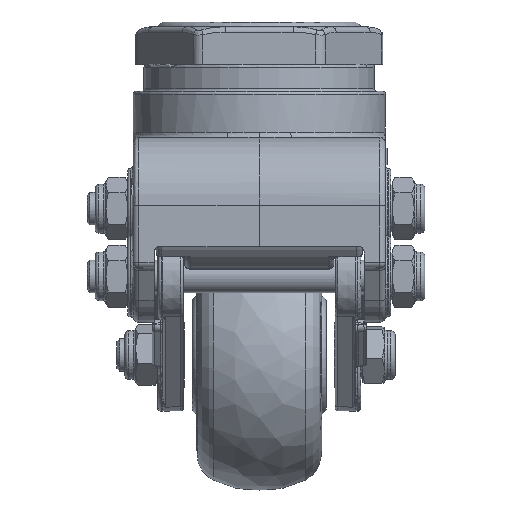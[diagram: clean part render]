
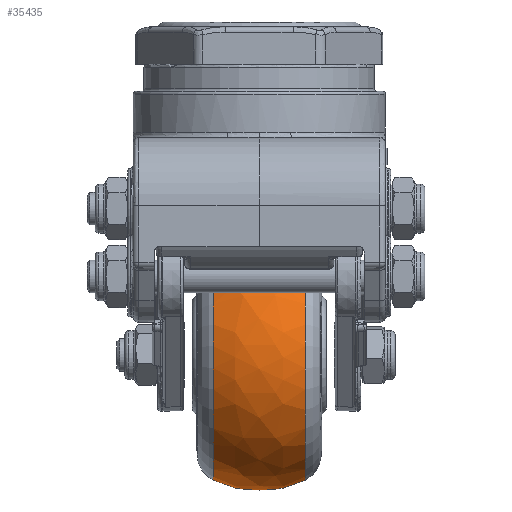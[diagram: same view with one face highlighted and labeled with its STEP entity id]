
A CAD part, left-side view. The second image highlights one B-rep face of the part: STEP entity #35435.
In plain terms, the highlighted free-form (B-spline) face has degree [2, 2] with [3, 9] control points.
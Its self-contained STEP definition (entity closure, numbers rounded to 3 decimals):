
#18=(
BOUNDED_SURFACE()
B_SPLINE_SURFACE(2,2,((#55924,#55925,#55926,#55927,#55928,#55929,#55930,
#55931,#55932),(#55933,#55934,#55935,#55936,#55937,#55938,#55939,#55940,
#55941),(#55942,#55943,#55944,#55945,#55946,#55947,#55948,#55949,#55950)),
 .UNSPECIFIED.,.F.,.T.,.F.)
B_SPLINE_SURFACE_WITH_KNOTS((3,3),(3,2,2,2,3),(-0.44,0.44),
(-3.142,-1.571,0.,1.571,3.142),
 .UNSPECIFIED.)
GEOMETRIC_REPRESENTATION_ITEM()
RATIONAL_B_SPLINE_SURFACE(((1.,0.707,1.,0.707,1.,
0.707,1.,0.707,1.),(0.905,0.64,
0.905,0.64,0.905,0.64,
0.905,0.64,0.905),(1.,0.707,
1.,0.707,1.,0.707,1.,0.707,1.)))
REPRESENTATION_ITEM('')
SURFACE()
);
#3063=FACE_OUTER_BOUND('',#5084,.T.);
#5084=EDGE_LOOP('',(#26461,#26462,#26463,#26464,#26465,#26466));
#6847=CIRCLE('',#37865,23.096);
#6848=CIRCLE('',#37866,23.096);
#6859=CIRCLE('',#37883,23.096);
#6860=CIRCLE('',#37884,23.096);
#6862=CIRCLE('',#37886,20.);
#15012=VERTEX_POINT('',#55885);
#15013=VERTEX_POINT('',#55887);
#15024=VERTEX_POINT('',#55919);
#15025=VERTEX_POINT('',#55920);
#19116=EDGE_CURVE('',#15012,#15013,#6847,.T.);
#19117=EDGE_CURVE('',#15013,#15012,#6848,.T.);
#19131=EDGE_CURVE('',#15024,#15025,#6859,.T.);
#19132=EDGE_CURVE('',#15025,#15024,#6860,.T.);
#19134=EDGE_CURVE('',#15012,#15025,#6862,.T.);
#26461=ORIENTED_EDGE('',*,*,#19117,.F.);
#26462=ORIENTED_EDGE('',*,*,#19116,.F.);
#26463=ORIENTED_EDGE('',*,*,#19134,.T.);
#26464=ORIENTED_EDGE('',*,*,#19132,.T.);
#26465=ORIENTED_EDGE('',*,*,#19131,.T.);
#26466=ORIENTED_EDGE('',*,*,#19134,.F.);
#35435=ADVANCED_FACE('',(#3063),#18,.F.);
#37865=AXIS2_PLACEMENT_3D('',#55888,#42582,#42583);
#37866=AXIS2_PLACEMENT_3D('',#55889,#42584,#42585);
#37883=AXIS2_PLACEMENT_3D('',#55921,#42621,#42622);
#37884=AXIS2_PLACEMENT_3D('',#55922,#42623,#42624);
#37886=AXIS2_PLACEMENT_3D('',#55951,#42627,#42628);
#42582=DIRECTION('center_axis',(0.,-1.,0.));
#42583=DIRECTION('ref_axis',(0.103,0.,-0.995));
#42584=DIRECTION('center_axis',(0.,-1.,0.));
#42585=DIRECTION('ref_axis',(0.103,0.,-0.995));
#42621=DIRECTION('center_axis',(0.,-1.,0.));
#42622=DIRECTION('ref_axis',(0.103,0.,-0.995));
#42623=DIRECTION('center_axis',(0.,-1.,0.));
#42624=DIRECTION('ref_axis',(0.103,0.,-0.995));
#42627=DIRECTION('center_axis',(-0.995,0.,
-0.103));
#42628=DIRECTION('ref_axis',(-0.103,0.,0.995));
#55885=CARTESIAN_POINT('',(11.851,-15.486,-39.291));
#55887=CARTESIAN_POINT('',(16.597,-15.486,-85.239));
#55888=CARTESIAN_POINT('Origin',(14.224,-15.486,-62.265));
#55889=CARTESIAN_POINT('Origin',(14.224,-15.486,-62.265));
#55919=CARTESIAN_POINT('',(16.597,1.546,-85.239));
#55920=CARTESIAN_POINT('',(11.851,1.546,-39.291));
#55921=CARTESIAN_POINT('Origin',(14.224,1.546,-62.265));
#55922=CARTESIAN_POINT('Origin',(14.224,1.546,-62.265));
#55924=CARTESIAN_POINT('Ctrl Pts',(11.851,1.546,-39.291));
#55925=CARTESIAN_POINT('Ctrl Pts',(-11.123,1.546,-41.664));
#55926=CARTESIAN_POINT('Ctrl Pts',(-8.75,1.546,-64.638));
#55927=CARTESIAN_POINT('Ctrl Pts',(-6.377,1.546,-87.612));
#55928=CARTESIAN_POINT('Ctrl Pts',(16.597,1.546,-85.239));
#55929=CARTESIAN_POINT('Ctrl Pts',(39.571,1.546,-82.866));
#55930=CARTESIAN_POINT('Ctrl Pts',(37.198,1.546,-59.891));
#55931=CARTESIAN_POINT('Ctrl Pts',(34.825,1.546,-36.917));
#55932=CARTESIAN_POINT('Ctrl Pts',(11.851,1.546,-39.291));
#55933=CARTESIAN_POINT('Ctrl Pts',(11.439,-6.97,-35.304));
#55934=CARTESIAN_POINT('Ctrl Pts',(-15.522,-6.97,
-38.089));
#55935=CARTESIAN_POINT('Ctrl Pts',(-12.737,-6.97,
-65.05));
#55936=CARTESIAN_POINT('Ctrl Pts',(-9.952,-6.97,-92.01));
#55937=CARTESIAN_POINT('Ctrl Pts',(17.009,-6.97,-89.225));
#55938=CARTESIAN_POINT('Ctrl Pts',(43.969,-6.97,-86.44));
#55939=CARTESIAN_POINT('Ctrl Pts',(41.184,-6.97,-59.48));
#55940=CARTESIAN_POINT('Ctrl Pts',(38.399,-6.97,-32.519));
#55941=CARTESIAN_POINT('Ctrl Pts',(11.439,-6.97,-35.304));
#55942=CARTESIAN_POINT('Ctrl Pts',(11.851,-15.486,-39.291));
#55943=CARTESIAN_POINT('Ctrl Pts',(-11.123,-15.486,
-41.664));
#55944=CARTESIAN_POINT('Ctrl Pts',(-8.75,-15.486,
-64.638));
#55945=CARTESIAN_POINT('Ctrl Pts',(-6.377,-15.486,
-87.612));
#55946=CARTESIAN_POINT('Ctrl Pts',(16.597,-15.486,-85.239));
#55947=CARTESIAN_POINT('Ctrl Pts',(39.571,-15.486,-82.866));
#55948=CARTESIAN_POINT('Ctrl Pts',(37.198,-15.486,-59.891));
#55949=CARTESIAN_POINT('Ctrl Pts',(34.825,-15.486,-36.917));
#55950=CARTESIAN_POINT('Ctrl Pts',(11.851,-15.486,-39.291));
#55951=CARTESIAN_POINT('Origin',(13.71,-6.97,-57.291));
